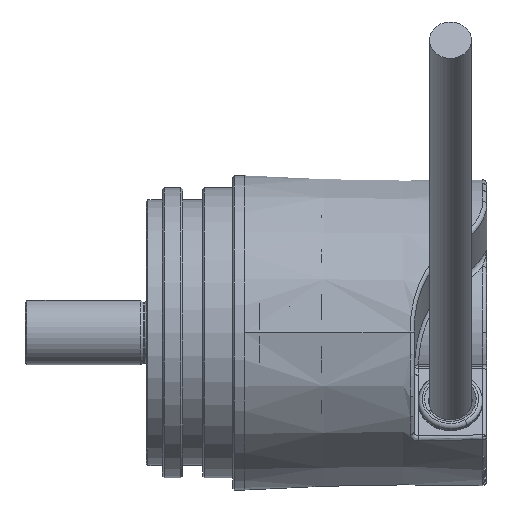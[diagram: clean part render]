
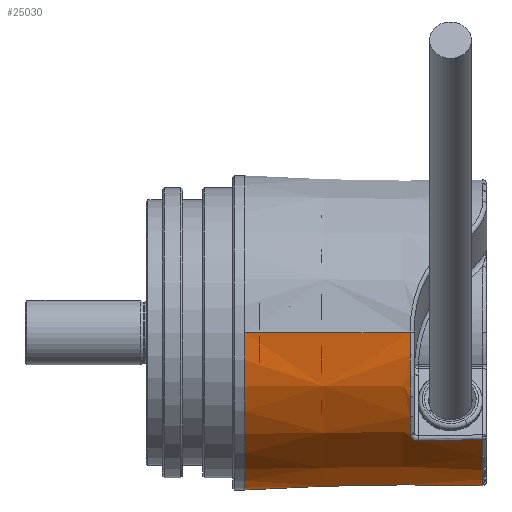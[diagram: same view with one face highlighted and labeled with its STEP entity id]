
A CAD part, front view. The second image highlights one B-rep face of the part: STEP entity #25030.
In plain terms, the highlighted conical face has half-angle 1 degrees and reference radius 18.976 mm.
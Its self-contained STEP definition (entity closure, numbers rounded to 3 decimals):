
#24305 = VERTEX_POINT ( 'NONE', #37008 ) ;
#24522 = EDGE_CURVE ( 'NONE', #24305, #24572, #37656, .T. ) ;
#24528 = VERTEX_POINT ( 'NONE', #37812 ) ;
#24572 = VERTEX_POINT ( 'NONE', #38026 ) ;
#24581 = VERTEX_POINT ( 'NONE', #38079 ) ;
#24795 = EDGE_CURVE ( 'NONE', #24581, #24796, #38533, .T. ) ;
#24796 = VERTEX_POINT ( 'NONE', #38529 ) ;
#25030 = ADVANCED_FACE ( 'NONE', ( #39256 ), #39277, .T. ) ;
#25031 = ORIENTED_EDGE ( 'NONE', *, *, #24795, .F. ) ;
#25047 = EDGE_LOOP ( 'NONE', ( #25031, #25349, #25072, #25345, #25341, #25351, #25342 ) ) ;
#25072 = ORIENTED_EDGE ( 'NONE', *, *, #25333, .T. ) ;
#25109 = EDGE_CURVE ( 'NONE', #24796, #24572, #39520, .T. ) ;
#25333 = EDGE_CURVE ( 'NONE', #24528, #25334, #41147, .T. ) ;
#25334 = VERTEX_POINT ( 'NONE', #41232 ) ;
#25340 = EDGE_CURVE ( 'NONE', #25346, #25334, #42248, .T. ) ;
#25341 = ORIENTED_EDGE ( 'NONE', *, *, #25347, .T. ) ;
#25342 = ORIENTED_EDGE ( 'NONE', *, *, #25109, .F. ) ;
#25345 = ORIENTED_EDGE ( 'NONE', *, *, #25340, .F. ) ;
#25346 = VERTEX_POINT ( 'NONE', #42451 ) ;
#25347 = EDGE_CURVE ( 'NONE', #25346, #24305, #42444, .T. ) ;
#25349 = ORIENTED_EDGE ( 'NONE', *, *, #25350, .T. ) ;
#25350 = EDGE_CURVE ( 'NONE', #24581, #24528, #42429, .T. ) ;
#25351 = ORIENTED_EDGE ( 'NONE', *, *, #24522, .T. ) ;
#37008 = CARTESIAN_POINT ( 'NONE',  ( 32.709, -19.142, 0. ) ) ;
#37653 = DIRECTION ( 'NONE',  ( -1., -0.017, 0. ) ) ;
#37654 = VECTOR ( 'NONE', #37653, 1000. ) ;
#37655 = CARTESIAN_POINT ( 'NONE',  ( 42.2, -18.976, 0. ) ) ;
#37656 = LINE ( 'NONE', #37655, #37654 ) ;
#37812 = CARTESIAN_POINT ( 'NONE',  ( 41.709, -13.586, -13.261 ) ) ;
#38026 = CARTESIAN_POINT ( 'NONE',  ( 12.2, -19.5, 0. ) ) ;
#38079 = CARTESIAN_POINT ( 'NONE',  ( 41.709, 18.985, 0. ) ) ;
#38529 = CARTESIAN_POINT ( 'NONE',  ( 12.2, 19.5, 0. ) ) ;
#38530 = DIRECTION ( 'NONE',  ( -1., 0.017, 0. ) ) ;
#38531 = VECTOR ( 'NONE', #38530, 1000. ) ;
#38532 = CARTESIAN_POINT ( 'NONE',  ( 42.2, 18.976, 0. ) ) ;
#38533 = LINE ( 'NONE', #38532, #38531 ) ;
#39256 = FACE_OUTER_BOUND ( 'NONE', #25047, .T. ) ;
#39272 = DIRECTION ( 'NONE',  ( 0., -1., 0. ) ) ;
#39273 = DIRECTION ( 'NONE',  ( -1., 0., 0. ) ) ;
#39274 = CARTESIAN_POINT ( 'NONE',  ( 42.2, 0., 0. ) ) ;
#39275 = AXIS2_PLACEMENT_3D ( 'NONE', #39274, #39273, #39272 ) ;
#39277 = CONICAL_SURFACE ( 'NONE', #39275, 18.976, 0.017 ) ;
#39516 = DIRECTION ( 'NONE',  ( 0., -1., 0. ) ) ;
#39517 = DIRECTION ( 'NONE',  ( -1., 0., 0. ) ) ;
#39518 = CARTESIAN_POINT ( 'NONE',  ( 12.2, 0., 0. ) ) ;
#39519 = AXIS2_PLACEMENT_3D ( 'NONE', #39518, #39517, #39516 ) ;
#39520 = CIRCLE ( 'NONE', #39519, 19.5 ) ;
#41147 = B_SPLINE_CURVE_WITH_KNOTS ( 'NONE', 3,
 ( #41228, #41226, #41225, #41224, #41222, #41221, #41220, #41219, #41218, #41217 ),
 .UNSPECIFIED., .F., .F.,
 ( 4, 3, 3, 4 ),
 ( 0., 0.001, 0.005, 0.008 ),
 .UNSPECIFIED. ) ;
#41217 = CARTESIAN_POINT ( 'NONE',  ( 33.709, -13.658, -13.387 ) ) ;
#41218 = CARTESIAN_POINT ( 'NONE',  ( 34.709, -13.649, -13.371 ) ) ;
#41219 = CARTESIAN_POINT ( 'NONE',  ( 35.709, -13.64, -13.356 ) ) ;
#41220 = CARTESIAN_POINT ( 'NONE',  ( 36.71, -13.631, -13.34 ) ) ;
#41221 = CARTESIAN_POINT ( 'NONE',  ( 38.043, -13.619, -13.319 ) ) ;
#41222 = CARTESIAN_POINT ( 'NONE',  ( 39.376, -13.607, -13.298 ) ) ;
#41224 = CARTESIAN_POINT ( 'NONE',  ( 40.709, -13.595, -13.277 ) ) ;
#41225 = CARTESIAN_POINT ( 'NONE',  ( 41.042, -13.592, -13.271 ) ) ;
#41226 = CARTESIAN_POINT ( 'NONE',  ( 41.375, -13.589, -13.266 ) ) ;
#41228 = CARTESIAN_POINT ( 'NONE',  ( 41.709, -13.586, -13.261 ) ) ;
#41232 = CARTESIAN_POINT ( 'NONE',  ( 33.709, -13.658, -13.387 ) ) ;
#42248 = B_SPLINE_CURVE_WITH_KNOTS ( 'NONE', 3,
 ( #42269, #42267, #42266, #42265, #42264, #42262, #42261, #42260, #42259, #42258 ),
 .UNSPECIFIED., .F., .F.,
 ( 4, 2, 2, 2, 4 ),
 ( 0., 0., 0.001, 0.001, 0.002 ),
 .UNSPECIFIED. ) ;
#42258 = CARTESIAN_POINT ( 'NONE',  ( 33.709, -13.658, -13.387 ) ) ;
#42259 = CARTESIAN_POINT ( 'NONE',  ( 33.572, -13.659, -13.389 ) ) ;
#42260 = CARTESIAN_POINT ( 'NONE',  ( 33.437, -13.681, -13.37 ) ) ;
#42261 = CARTESIAN_POINT ( 'NONE',  ( 33.19, -13.762, -13.293 ) ) ;
#42262 = CARTESIAN_POINT ( 'NONE',  ( 33.079, -13.821, -13.235 ) ) ;
#42264 = CARTESIAN_POINT ( 'NONE',  ( 32.898, -13.961, -13.091 ) ) ;
#42265 = CARTESIAN_POINT ( 'NONE',  ( 32.827, -14.044, -13.005 ) ) ;
#42266 = CARTESIAN_POINT ( 'NONE',  ( 32.733, -14.216, -12.819 ) ) ;
#42267 = CARTESIAN_POINT ( 'NONE',  ( 32.709, -14.307, -12.718 ) ) ;
#42269 = CARTESIAN_POINT ( 'NONE',  ( 32.709, -14.397, -12.615 ) ) ;
#42422 = DIRECTION ( 'NONE',  ( 0., 1., 0. ) ) ;
#42424 = DIRECTION ( 'NONE',  ( -1., 0., 0. ) ) ;
#42426 = CARTESIAN_POINT ( 'NONE',  ( 41.709, 0., 0. ) ) ;
#42428 = AXIS2_PLACEMENT_3D ( 'NONE', #42426, #42424, #42422 ) ;
#42429 = CIRCLE ( 'NONE', #42428, 18.985 ) ;
#42438 = DIRECTION ( 'NONE',  ( 0., -1., 0. ) ) ;
#42441 = DIRECTION ( 'NONE',  ( -1., 0., 0. ) ) ;
#42442 = CARTESIAN_POINT ( 'NONE',  ( 32.709, 0., 0. ) ) ;
#42443 = AXIS2_PLACEMENT_3D ( 'NONE', #42442, #42441, #42438 ) ;
#42444 = CIRCLE ( 'NONE', #42443, 19.142 ) ;
#42451 = CARTESIAN_POINT ( 'NONE',  ( 32.709, -14.397, -12.615 ) ) ;
